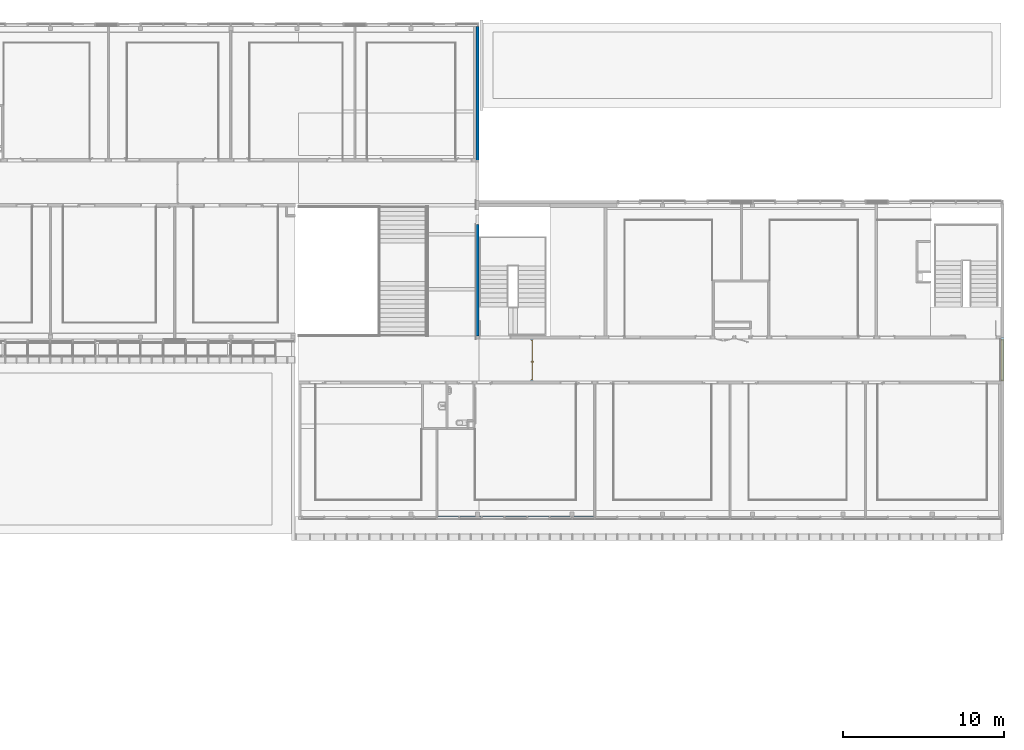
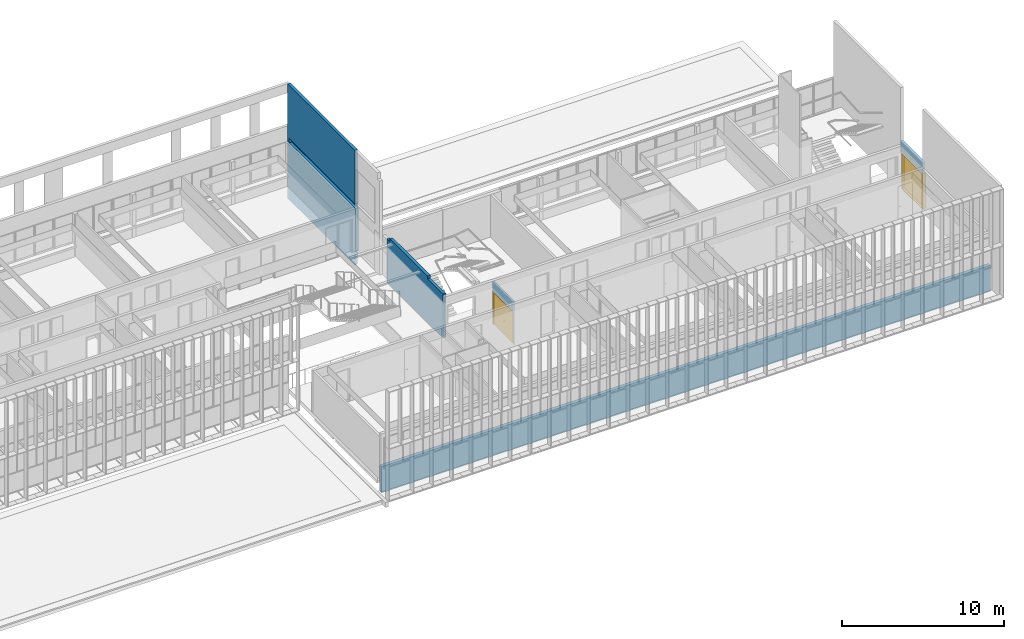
# One storey, part 98 of 106: 3 walls, 1 door, 1 window, 3 openings, plus 2 elements that do not belong to this part.
"""IFC2X3 building model written with IfcOpenShell, lengths in centimetres."""

from ifc_helpers import new_model, entity, si_unit, converted_unit, derived_unit, direction, frame, frame_2d, origin, place, context, subcontext, project, spatial, polyline, rectangle, extrude, clip, bounded_halfspace, faceted_brep, source, transform, mapped, material, material_list, layer, layer_set, layer_usage, type_object, type_shapes, element, fill, save


model = new_model("IFC2X3")

# Units and contexts
model_context = context("Model", 3, precision=0.001, world=origin(), true_north=direction((6.12303176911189e-17, 1.0)))
body_context = subcontext(model_context, "Body", "Model", "MODEL_VIEW")
ifc_project = project(units=[si_unit("LENGTHUNIT", "METRE", prefix="CENTI"), si_unit("AREAUNIT", "SQUARE_METRE"), si_unit("VOLUMEUNIT", "CUBIC_METRE"), converted_unit("PLANEANGLEUNIT", "DEGREE", entity("IfcRatioMeasure", 0.0174532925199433), si_unit("PLANEANGLEUNIT", "RADIAN"), dimensions=[0, 0, 0, 0, 0, 0, 0]), si_unit("MASSUNIT", "GRAM", prefix="KILO"), derived_unit("MASSDENSITYUNIT", [(si_unit("MASSUNIT", "GRAM", prefix="KILO"), 1), (si_unit("LENGTHUNIT", "METRE"), -3)]), si_unit("TIMEUNIT", "SECOND"), si_unit("FREQUENCYUNIT", "HERTZ"), si_unit("THERMODYNAMICTEMPERATUREUNIT", "DEGREE_CELSIUS"), derived_unit("THERMALTRANSMITTANCEUNIT", [(si_unit("MASSUNIT", "GRAM", prefix="KILO"), 1), (si_unit("THERMODYNAMICTEMPERATUREUNIT", "KELVIN"), -1), (si_unit("TIMEUNIT", "SECOND"), -3)]), derived_unit("VOLUMETRICFLOWRATEUNIT", [(si_unit("LENGTHUNIT", "METRE"), 3), (si_unit("TIMEUNIT", "SECOND"), -1)]), si_unit("ELECTRICCURRENTUNIT", "AMPERE"), si_unit("ELECTRICVOLTAGEUNIT", "VOLT"), si_unit("POWERUNIT", "WATT"), si_unit("FORCEUNIT", "NEWTON", prefix="KILO"), si_unit("ILLUMINANCEUNIT", "LUX"), si_unit("LUMINOUSFLUXUNIT", "LUMEN"), si_unit("LUMINOUSINTENSITYUNIT", "CANDELA"), derived_unit("USERDEFINED", [(si_unit("MASSUNIT", "GRAM", prefix="KILO"), -1), (si_unit("LENGTHUNIT", "METRE"), -2), (si_unit("TIMEUNIT", "SECOND"), 3), (si_unit("LUMINOUSFLUXUNIT", "LUMEN"), 1)]), derived_unit("LINEARVELOCITYUNIT", [(si_unit("LENGTHUNIT", "METRE"), 1), (si_unit("TIMEUNIT", "SECOND"), -1)]), si_unit("PRESSUREUNIT", "PASCAL"), derived_unit("USERDEFINED", [(si_unit("LENGTHUNIT", "METRE"), -2), (si_unit("MASSUNIT", "GRAM", prefix="KILO"), 1), (si_unit("TIMEUNIT", "SECOND"), -2)])], contexts=[model_context])

# Site, building, storey
site_placement = place(None, frame((-2781.94577612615, 7442.24238424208, 0.0)))
site = spatial("IfcSite", under=ifc_project, at=site_placement, Name="Default", CompositionType="ELEMENT")
building_placement = place(site_placement, origin())
building = spatial("IfcBuilding", under=site, at=building_placement, CompositionType="ELEMENT")
storey_placement = place(building_placement, frame((0.0, 0.0, 422.0)))
storey = spatial("IfcBuildingStorey", under=building, at=storey_placement, Name="Toiture - Cuisine", CompositionType="ELEMENT", Elevation=421.999999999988)

# Walls
ifc_material_1 = material(Name="01 - Maçonnerie")
ifc_layer_1 = layer(ifc_material_1, 25.0)
ifc_layer_set_1 = layer_set([ifc_layer_1], Name="Mur de base:04 - Structure - béton - 25cm")
wall_type_1 = type_object("IfcWallType", Name="Mur de base:04 - Structure - béton - 25cm", PredefinedType="STANDARD", material=ifc_layer_set_1)
wall_1_placement = place(building_placement, frame((-409.999882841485, -3017.81349958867, 313.0), z_axis=(0.0, 0.0, 1.0), x_axis=(-1.0, 0.0, 0.0)))
element("IfcWall", 1, at=wall_1_placement, inside=storey, type_object=wall_type_1, Name="Mur de base:04 - Structure - béton - 25cm", ObjectType="Mur de base:04 - Structure - béton - 25cm", context=body_context, shape_type="Brep", body=[
    faceted_brep([(4342.69999476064, -12.4999999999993, 197.0), (0.0, -12.4999999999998, 197.0), (0.0, -12.4999999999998, 109.0), (0.0, -12.4999999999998, 78.0), (0.0, -12.4999999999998, 0.0), (3239.49999684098, -12.4999999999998, 0.0), (3239.49999684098, -12.4999999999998, 7.0), (4342.69999476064, -12.4999999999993, 7.0), (4342.69999476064, 12.5000000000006, 0.0), (0.0, 12.5000000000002, 0.0), (0.0, 12.5000000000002, 25.0), (0.0, 12.5000000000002, 197.0), (4342.69999476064, 12.5000000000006, 197.0), (4342.69999476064, 12.5000000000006, 109.0), (4342.69999476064, 12.5000000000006, 25.0), (4342.69999476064, -7.49999999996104, 0.0), (3239.49999684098, -7.49999999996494, 0.0), (4342.69999476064, -7.49999999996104, 7.0), (3239.49999684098, -7.49999999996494, 7.0)], [[[0, 1, 2, 3, 4, 5, 6, 7]], [[8, 9, 10, 11, 12, 13, 14]], [[9, 8, 15, 16, 5, 4]], [[1, 0, 12, 11]], [[12, 0, 7, 17, 15, 8, 14, 13]], [[4, 3, 2, 1, 11, 10, 9]], [[6, 18, 17, 7]], [[18, 16, 15, 17]], [[16, 18, 6, 5]]]),
])
ifc_layer_2 = layer(ifc_material_1, 20.0)
ifc_layer_set_2 = layer_set([ifc_layer_2], Name="Mur de base:04 - Structure - béton - 20cm")
wall_type_2 = type_object("IfcWallType", Name="Mur de base:04 - Structure - béton - 20cm", PredefinedType="STANDARD", material=ifc_layer_set_2)
wall_2_placement = place(building_placement, frame((-3657.99987968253, 10.0, 313.0), z_axis=(0.0, 0.0, 1.0), x_axis=(0.0, -1.0, 0.0)))
element("IfcWall", 2, at=wall_2_placement, inside=storey, type_object=wall_type_2, Name="Mur de base:04 - Structure - béton - 20cm", ObjectType="Mur de base:04 - Structure - béton - 20cm", context=body_context, shape_type="Brep", body=[
    faceted_brep([(0.0, -10.0, 0.0), (25.0, -10.0, 0.0), (517.548500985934, -10.0, 0.0), (522.548500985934, -10.0, 0.0), (532.548500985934, -10.0, 0.0), (830.04850098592, -10.0, 0.0), (830.04850098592, -10.0, 78.0), (830.04850098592, -10.0, 109.0), (840.048500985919, -10.0, 109.0), (840.048500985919, -10.0, 379.0), (840.048500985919, -10.0, 430.0), (830.048500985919, -10.0, 430.0), (820.048500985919, -10.0, 430.0), (20.0, -10.0, 430.0), (20.0, -10.0, 461.0), (830.04850098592, -10.0, 461.0), (830.04850098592, -10.0, 787.0), (830.04850098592, -10.0, 833.0), (830.04850098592, -10.0, 863.0), (20.0, -10.0, 863.0), (0.0, -10.0, 863.0), (0.0, -10.0, 858.0), (0.0, -10.0, 197.0), (0.0, -10.0, 78.0), (0.0, -10.0, 62.0), (830.04850098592, 10.0, 0.0), (522.548500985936, 10.0, 0.0), (0.0, 10.0, 0.0), (0.0, 10.0, 863.0), (830.04850098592, 10.0, 863.0), (830.04850098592, 10.0, 430.0), (840.04850098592, 10.0, 430.0), (840.04850098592, 10.0, 379.0), (840.04850098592, 10.0, 109.0), (830.04850098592, 10.0, 109.0), (830.04850098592, 8.49999999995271, 461.0), (830.04850098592, 8.49999999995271, 430.0), (20.0, 8.49999999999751, 430.0), (20.0, 8.49999999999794, 461.0)], [[[0, 1, 2, 3, 4, 5, 6, 7, 8, 9, 10, 11, 12, 13, 14, 15, 16, 17, 18, 19, 20, 21, 22, 23, 24]], [[25, 26, 27, 28, 29, 30, 31, 32, 33, 34]], [[5, 4, 3, 2, 1, 0, 27, 26, 25]], [[20, 19, 18, 29, 28]], [[0, 24, 23, 22, 21, 20, 28, 27]], [[5, 25, 34, 7, 6]], [[8, 7, 34, 33]], [[29, 18, 17, 16, 15, 35, 36, 30]], [[8, 33, 32, 31, 10, 9]], [[31, 30, 36, 37, 13, 12, 11, 10]], [[38, 35, 15, 14]], [[37, 38, 14, 13]], [[38, 37, 36, 35]]]),
])
wall_3_placement = place(building_placement, frame((-3657.99987968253, -1910.07903364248, 422.0), z_axis=(0.0, 0.0, 1.0), x_axis=(0.0, 1.0, 0.0)))
element("IfcWall", 3, at=wall_3_placement, inside=storey, type_object=wall_type_2, Name="Mur de base:04 - Structure - béton - 20cm", ObjectType="Mur de base:04 - Structure - béton - 20cm", context=body_context, shape_type="Brep", body=[
    faceted_brep([(0.0, -10.0, 0.0), (690.97226327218, -10.0, 0.0), (690.97226327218, -10.0, 210.0), (690.97226327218, -10.0, 321.0), (690.97226327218, -10.0, 331.0), (656.706770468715, -10.0, 331.0), (656.706770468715, -10.0, 352.0), (190.0, -10.0, 352.0), (190.0, -10.0, 331.0), (0.0, -10.0, 331.0), (0.0, -10.0, 253.500000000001), (690.97226327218, 10.0, 0.0), (0.0, 10.0, 0.0), (0.0, 10.0, 321.0), (0.0, 10.0, 331.0), (190.0, 10.0, 331.0), (190.0, 10.0, 352.0), (656.706770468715, 10.0, 352.0), (656.706770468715, 10.0, 331.0), (690.97226327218, 10.0, 331.0), (690.972263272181, 10.0, 321.0), (690.972263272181, 10.0, 270.0), (690.97226327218, 10.0, 210.0)], [[[0, 1, 2, 3, 4, 5, 6, 7, 8, 9, 10]], [[11, 12, 13, 14, 15, 16, 17, 18, 19, 20, 21, 22]], [[1, 0, 12, 11]], [[1, 11, 22, 21, 20, 19, 4, 3, 2]], [[7, 6, 17, 16]], [[12, 0, 10, 9, 14, 13]], [[18, 5, 4, 19]], [[15, 8, 7, 16]], [[5, 18, 17, 6]], [[8, 15, 14, 9]]]),
])

# Wall, openings, window
ifc_layer_usage_1 = layer_usage(ifc_layer_set_2, "AXIS2", "NEGATIVE", 10.0)
wall_4_placement = place(building_placement, frame((-399.999882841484, -2190.07903364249, 692.0), z_axis=(0.0, 0.0, 1.0), x_axis=(0.0, 1.0, 0.0)))
wall_4 = element("IfcWallStandardCase", 4, at=wall_4_placement, inside=storey, type_object=wall_type_2, material=ifc_layer_usage_1, Name="Mur de base:04 - Structure - béton - 20cm", ObjectType="Mur de base:04 - Structure - béton - 20cm", context=body_context, shape_type="Clipping", body=[
    clip(extrude(rectangle(XDim=270.000000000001, YDim=20.0, at=frame_2d((135.0, 8.88178419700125e-15), x_axis=(-1.0, 0.0))), origin(), (0.0, 0.0, 1.0), 82.0000000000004), bounded_halfspace(frame((0.0, -10.0, 0.0), z_axis=(1.0, 0.0, 0.0), x_axis=(0.0, 1.0, 0.0)), True, frame((0.0, -10.0, 0.0), z_axis=(1.0, 0.0, 0.0), x_axis=(0.0, 1.0, 0.0)), polyline([(0.0, 0.0), (20.0, 0.0), (20.0, 82.0), (0.0, 82.0), (0.0, 0.0)]))),
])
opening_1_placement = place(wall_4_placement, origin())
element("IfcOpeningElement", 5, at=opening_1_placement, cuts=wall_4, Name="Mur de base:04 - Structure - béton - 20cm", ObjectType="Opening", context=body_context, shape_type="SweptSolid", body=[
    extrude(rectangle(XDim=270.0, YDim=260.0, at=frame_2d((2.27373675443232e-13, 0.0), x_axis=(0.0, 1.0))), frame((130.0, -162.400000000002, 217.0), z_axis=(0.0, 1.0, 0.0), x_axis=(-1.0, 0.0, 0.0)), (0.0, 0.0, 1.0), 304.8),
])
opening_2_placement = place(wall_4_placement, frame((-0.0775336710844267, -10.0, -270.0)))
opening_2 = element("IfcOpeningElement", 6, at=opening_2_placement, cuts=wall_4, Name="châssis intérieur vitré:R+1 - Pignon -  châssis intérieur vitré (2,70m):1", ObjectType="Opening", context=body_context, shape_type="SweptSolid", body=[
    extrude(rectangle(XDim=270.0, YDim=260.077533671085, at=frame_2d((135.0, 130.038766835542), x_axis=(1.0, 0.0))), frame((0.0, 0.0, 0.0), z_axis=(0.0, 1.0, 0.0), x_axis=(0.0, 0.0, 1.0)), (0.0, 0.0, 1.0), 20.0),
])
ifc_material_2 = material(Name="Verre")
ifc_material_3 = material(Name="huisserie bois")
ifc_material_list_1 = material_list([ifc_material_2, ifc_material_3])
ifc_material_list_2 = material_list([ifc_material_2, ifc_material_3])
window_style = type_object("IfcWindowStyle", Name="R+1 - Pignon -  châssis intérieur vitré (2,70m)", ConstructionType="NOTDEFINED", OperationType="NOTDEFINED", ParameterTakesPrecedence=False, Sizeable=False, material=ifc_material_list_2)
shared_shape_1 = source(origin(), body_context, "Body", "Brep", [
    faceted_brep([(257.077533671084, 5.0, 267.0), (257.077533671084, 5.0, 3.0), (3.0, 5.0, 3.0), (3.0, 5.0, 267.0), (257.077533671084, 2.0, 267.0), (257.077533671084, 2.0, 3.0), (3.0, 2.0, 3.0), (3.0, 2.0, 267.0)], [[[0, 1, 2, 3]], [[1, 0, 4, 5]], [[2, 1, 5, 6]], [[3, 2, 6, 7]], [[4, 7, 6, 5]], [[0, 3, 7, 4]]]),
    faceted_brep([(257.077533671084, 2.0, 267.0), (257.077533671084, 0.0, 267.0), (257.077533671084, 0.0, 3.0), (257.077533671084, 2.0, 3.0), (255.077533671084, 0.0, 5.0), (5.0, 0.0, 5.0), (5.0, 0.0, 265.0), (255.077533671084, 0.0, 265.0), (3.0, 0.0, 267.0), (3.0, 0.0, 3.0), (3.0, 2.0, 3.0), (3.0, 2.0, 267.0), (255.077533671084, 2.0, 265.0), (5.0, 2.0, 265.0), (5.0, 2.0, 5.0), (255.077533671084, 2.0, 5.0)], [[[0, 1, 2, 3]], [[4, 5, 6, 7], [1, 8, 9, 2]], [[3, 2, 9, 10]], [[3, 10, 11, 0], [12, 13, 14, 15]], [[7, 12, 15, 4]], [[4, 15, 14, 5]], [[10, 9, 8, 11]], [[5, 14, 13, 6]], [[11, 8, 1, 0]], [[6, 13, 12, 7]]], outer=[[True], [False, True], [True], [True, False], [True], [True], [True], [True], [True], [True]]),
    faceted_brep([(255.077533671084, 5.0, 265.0), (255.077533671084, 20.0, 265.0), (255.077533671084, 20.0, 5.0), (255.077533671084, 5.0, 5.0), (260.077533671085, 20.0, 0.0), (0.0, 20.0, 0.0), (0.0, 20.0, 270.0), (260.077533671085, 20.0, 270.0), (5.0, 20.0, 265.0), (5.0, 20.0, 5.0), (5.0, 5.0, 5.0), (5.0, 5.0, 265.0), (257.077533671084, 5.0, 267.0), (3.0, 5.0, 267.0), (3.0, 5.0, 3.0), (257.077533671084, 5.0, 3.0), (257.077533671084, 0.0, 267.0), (257.077533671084, 0.0, 3.0), (3.0, 0.0, 3.0), (3.0, 0.0, 267.0), (260.077533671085, 0.0, 270.0), (0.0, 0.0, 270.0), (0.0, 0.0, 0.0), (260.077533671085, 0.0, 0.0)], [[[0, 1, 2, 3]], [[4, 5, 6, 7], [1, 8, 9, 2]], [[3, 2, 9, 10]], [[3, 10, 11, 0], [12, 13, 14, 15]], [[16, 12, 15, 17]], [[17, 15, 14, 18]], [[17, 18, 19, 16], [20, 21, 22, 23]], [[7, 20, 23, 4]], [[4, 23, 22, 5]], [[10, 9, 8, 11]], [[18, 14, 13, 19]], [[5, 22, 21, 6]], [[11, 8, 1, 0]], [[19, 13, 12, 16]], [[6, 21, 20, 7]]], outer=[[True], [True, False], [True], [False, True], [True], [True], [False, True], [True], [True], [True], [True], [True], [True], [True], [True]]),
])
type_shapes(window_style, [shared_shape_1])
window_placement = place(opening_2_placement, origin())
window = element("IfcWindow", 7, at=window_placement, inside=storey, type_object=window_style, material=ifc_material_list_1, Name="châssis intérieur vitré:R+1 - Pignon -  châssis intérieur vitré (2,70m)", ObjectType="châssis intérieur vitré:R+1 - Pignon -  châssis intérieur vitré (2,70m)", OverallHeight=270.0, OverallWidth=260.077533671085, context=body_context, shape_type="MappedRepresentation", body=[
    mapped(shared_shape_1, transform((0.0, 0.0, 0.0), scale=1.0)),
])
fill(opening_2, window)

# Wall, opening, door
ifc_material_4 = material(Name="01 - Enduit/Plâtre")
ifc_layer_3 = layer(ifc_material_4, 1.3)
ifc_material_5 = material(Name="00 - Isolant")
ifc_layer_4 = layer(ifc_material_5, 7.4)
ifc_layer_5 = layer(ifc_material_4, 1.3)
ifc_layer_set_3 = layer_set([ifc_layer_3, ifc_layer_4, ifc_layer_5], Name="Mur de base:06 - cloisons - Ba13 10cm")
ifc_layer_usage_2 = layer_usage(ifc_layer_set_3, "AXIS2", "NEGATIVE", 5.0)
wall_type_3 = type_object("IfcWallType", Name="Mur de base:06 - cloisons - Ba13 10cm", PredefinedType="STANDARD", material=ifc_layer_set_3)
wall_5_placement = place(building_placement, frame((-3321.49987968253, -1930.07903364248, 422.0), z_axis=(0.0, 0.0, 1.0), x_axis=(0.0, -1.0, 0.0)))
wall_5 = element("IfcWallStandardCase", 8, at=wall_5_placement, inside=storey, type_object=wall_type_3, material=ifc_layer_usage_2, Name="Mur de base:06 - cloisons - Ba13 10cm", ObjectType="Mur de base:06 - cloisons - Ba13 10cm", context=body_context, shape_type="SweptSolid", body=[
    extrude(rectangle(XDim=260.077533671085, YDim=10.0000000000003, at=frame_2d((130.038766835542, 0.0), x_axis=(-1.0, 0.0))), origin(), (0.0, 0.0, 1.0), 321.0),
])
opening_3_placement = place(wall_5_placement, frame((5.03876683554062, -5.0, 0.0)))
opening_3 = element("IfcOpeningElement", 9, at=opening_3_placement, cuts=wall_5, Name="Int. Double:PV (2.50m x 2.04m):1", ObjectType="Opening", context=body_context, shape_type="SweptSolid", body=[
    extrude(rectangle(XDim=248.500000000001, YDim=250.0, at=frame_2d((124.250000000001, 125.0), x_axis=(1.0, 0.0))), frame((0.0, 0.0, 0.0), z_axis=(0.0, 1.0, 0.0), x_axis=(0.0, 0.0, 1.0)), (0.0, 0.0, 1.0), 10.0),
])
ifc_material_6 = material(Name="Bois - Panneau de porte")
ifc_material_7 = material(Name="Finition Peinture - Blanc satiné")
ifc_material_8 = material(Name="Bois - Cadre de porte")
ifc_material_list_3 = material_list([ifc_material_6, ifc_material_7, ifc_material_8])
ifc_material_list_4 = material_list([ifc_material_6, ifc_material_7, ifc_material_8])
door_style = type_object("IfcDoorStyle", Name="PV (2.50m x 2.04m)", ConstructionType="NOTDEFINED", OperationType="DOUBLE_DOOR_SINGLE_SWING", ParameterTakesPrecedence=False, Sizeable=False, material=ifc_material_list_4)
shared_shape_2 = source(origin(), body_context, "Body", "Brep", [
    faceted_brep([(132.0, 4.0, 245.0), (253.500000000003, 4.0, 245.0), (253.500000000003, 4.0, 0.0), (132.0, 4.0, 0.0), (132.0, 0.0, 245.0), (132.0, 0.0, 0.0), (253.500000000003, 0.0, 0.0), (253.500000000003, 0.0, 245.0)], [[[0, 1, 2, 3]], [[4, 5, 6, 7]], [[1, 0, 4, 7]], [[2, 1, 7, 6]], [[3, 2, 6, 5]], [[0, 3, 5, 4]]]),
    faceted_brep([(128.0, -0.50000000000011, 87.0), (128.0, -0.50000000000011, 108.0), (127.035276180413, -0.500000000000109, 108.399601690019), (126.0, -0.500000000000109, 108.535898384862), (124.964723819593, -0.500000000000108, 108.399601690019), (124.0, -0.500000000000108, 108.0), (124.0, -0.500000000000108, 87.0), (124.964723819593, -0.500000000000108, 86.6003983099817), (126.0, -0.500000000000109, 86.464101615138), (127.035276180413, -0.500000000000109, 86.6003983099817), (128.0, 0.0, 108.0), (128.0, 0.0, 87.0), (127.035276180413, 0.0, 86.6003983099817), (126.0, 0.0, 86.464101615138), (124.964723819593, 0.0, 86.6003983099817), (124.0, 0.0, 87.0), (124.0, 0.0, 108.0), (124.964723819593, 0.0, 108.399601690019), (126.0, 0.0, 108.535898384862), (127.035276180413, 0.0, 108.399601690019)], [[[0, 1, 2, 3, 4, 5, 6, 7, 8, 9]], [[10, 11, 12, 13, 14, 15, 16, 17, 18, 19]], [[9, 12, 11, 0]], [[8, 13, 12, 9]], [[7, 14, 13, 8]], [[7, 6, 15, 14]], [[15, 6, 5, 16]], [[4, 17, 16, 5]], [[3, 18, 17, 4]], [[2, 19, 18, 3]], [[2, 1, 10, 19]], [[11, 10, 1, 0]]]),
    faceted_brep([(128.0, 4.0, 87.0), (128.0, 4.0, 108.0), (127.035276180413, 4.0, 108.399601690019), (126.0, 4.0, 108.535898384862), (124.964723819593, 4.0, 108.399601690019), (124.0, 4.0, 108.0), (124.0, 4.0, 87.0), (124.964723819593, 4.0, 86.6003983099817), (126.0, 4.0, 86.464101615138), (127.035276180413, 4.0, 86.6003983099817), (126.0, 4.49999999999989, 108.535898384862), (127.035276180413, 4.49999999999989, 108.399601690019), (128.0, 4.49999999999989, 108.0), (128.0, 4.49999999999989, 87.0), (127.035276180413, 4.49999999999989, 86.6003983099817), (126.0, 4.49999999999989, 86.464101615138), (124.964723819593, 4.49999999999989, 86.6003983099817), (124.0, 4.49999999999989, 87.0), (124.0, 4.49999999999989, 108.0), (124.964723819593, 4.49999999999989, 108.399601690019)], [[[0, 1, 2, 3, 4, 5, 6, 7, 8, 9]], [[10, 11, 12, 13, 14, 15, 16, 17, 18, 19]], [[4, 19, 18, 5]], [[3, 10, 19, 4]], [[2, 11, 10, 3]], [[2, 1, 12, 11]], [[13, 12, 1, 0]], [[9, 14, 13, 0]], [[8, 15, 14, 9]], [[7, 16, 15, 8]], [[7, 6, 17, 16]], [[17, 6, 5, 18]]]),
    faceted_brep([(125.797470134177, -0.500000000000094, 100.778044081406), (126.202529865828, -0.500000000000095, 100.778044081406), (126.600000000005, -0.500000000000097, 100.699999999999), (126.600000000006, -0.500000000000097, 99.2999999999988), (126.202529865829, -0.500000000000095, 99.221955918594), (125.797470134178, -0.500000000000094, 99.2219559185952), (125.4, -0.500000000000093, 99.3000000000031), (125.4, -0.500000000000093, 100.7), (126.202529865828, -3.10045754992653, 100.778044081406), (126.600000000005, -3.26509507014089, 100.7), (125.797470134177, -2.93267631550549, 100.778044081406), (124.42986024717, -4.30028620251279, 100.778044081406), (124.597641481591, -4.70534593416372, 100.778044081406), (125.4, -2.76803879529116, 100.7), (125.4, -2.76803879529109, 99.3000000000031), (125.797470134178, -2.93267631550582, 99.2219559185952), (126.202529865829, -3.10045754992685, 99.221955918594), (124.597641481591, -4.7053459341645, 99.221955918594), (124.42986024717, -4.30028620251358, 99.2219559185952), (126.600000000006, -3.26509507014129, 99.2999999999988), (124.762279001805, -5.10281606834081, 100.7), (124.265222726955, -3.90281606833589, 100.7), (124.265222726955, -3.90281606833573, 99.3000000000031), (124.762279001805, -5.10281606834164, 99.2999999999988), (115.998135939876, -5.10281606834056, 100.7), (115.998135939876, -4.70534593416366, 100.778044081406), (115.998135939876, -4.30028620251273, 100.778044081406), (115.998135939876, -3.9028160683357, 100.699999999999), (115.998135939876, -3.90281606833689, 99.3000000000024), (115.998135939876, -4.30028620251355, 99.2219559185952), (115.998135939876, -4.70534593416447, 99.221955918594), (115.998135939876, -5.10281606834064, 99.2999999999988), (120.213998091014, -4.50281606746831, 100.78786867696), (120.769230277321, -5.10281606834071, 100.7), (120.131679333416, -3.9028160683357, 100.7), (120.131679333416, -3.9028160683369, 99.3000000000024), (120.213998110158, -4.50281607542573, 99.2121313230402), (120.769231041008, -5.10281606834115, 99.2999999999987)], [[[0, 1, 2, 3, 4, 5, 6, 7]], [[2, 1, 8, 9]], [[1, 0, 10, 11, 12, 8]], [[0, 7, 13, 10]], [[14, 13, 7, 6]], [[5, 15, 14, 6]], [[5, 4, 16, 17, 18, 15]], [[3, 19, 16, 4]], [[9, 19, 3, 2]], [[9, 8, 12, 20]], [[10, 13, 21, 11]], [[22, 21, 13, 14]], [[14, 15, 18, 22]], [[16, 19, 23, 17]], [[20, 23, 19, 9]], [[24, 25, 26, 27, 28, 29, 30, 31]], [[32, 25, 33]], [[33, 25, 24]], [[33, 20, 12]], [[11, 34, 32]], [[34, 11, 21]], [[27, 26, 34]], [[32, 26, 25]], [[32, 34, 26]], [[32, 33, 12]], [[11, 32, 12]], [[21, 22, 35, 28, 27, 34]], [[36, 29, 35]], [[30, 36, 37]], [[18, 35, 22]], [[29, 28, 35]], [[30, 37, 31]], [[37, 17, 23]], [[36, 17, 37]], [[36, 18, 17]], [[36, 35, 18]], [[29, 36, 30]], [[23, 20, 33, 24, 31, 37]]]),
    faceted_brep([(125.797470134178, 4.4999999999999, 99.2219559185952), (126.202529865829, 4.4999999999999, 99.221955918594), (126.600000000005, 4.4999999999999, 99.2999999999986), (126.600000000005, 4.4999999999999, 100.7), (126.202529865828, 4.4999999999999, 100.778044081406), (125.797470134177, 4.4999999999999, 100.778044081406), (125.4, 4.49999999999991, 100.7), (125.400000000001, 4.49999999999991, 99.3000000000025), (125.4, 6.7485204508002, 100.7), (125.4, 6.7485204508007, 99.3000000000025), (125.797470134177, 6.91315797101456, 100.778044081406), (126.202529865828, 7.08093920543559, 100.778044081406), (124.583890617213, 8.69957845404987, 100.778044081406), (124.416109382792, 8.29451872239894, 100.778044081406), (126.600000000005, 7.24557672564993, 100.7), (126.600000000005, 7.24557672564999, 99.2999999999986), (126.202529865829, 7.08093920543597, 99.221955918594), (125.797470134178, 6.91315797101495, 99.2219559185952), (124.416109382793, 8.29451872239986, 99.2219559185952), (124.583890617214, 8.69957845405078, 99.221955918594), (124.251471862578, 7.89704858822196, 100.7), (124.251471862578, 7.89704858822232, 99.3000000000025), (124.748528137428, 9.09704858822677, 100.7), (124.748528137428, 9.0970485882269, 99.2999999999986), (115.995421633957, 8.294518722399, 100.778044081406), (115.995421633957, 8.69957845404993, 100.778044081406), (115.995421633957, 9.09704858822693, 100.7), (115.995421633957, 9.09704858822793, 99.2999999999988), (115.995421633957, 8.6995784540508, 99.221955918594), (115.995421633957, 8.29451872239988, 99.2219559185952), (115.995421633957, 7.89704858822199, 99.3000000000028), (115.995421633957, 7.8970485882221, 100.7), (120.123446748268, 7.89704858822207, 100.7), (120.123447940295, 7.89704858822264, 99.3000000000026), (120.20576551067, 8.49704858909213, 100.78786867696), (120.755479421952, 9.09704858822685, 100.7), (120.755479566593, 9.09704858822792, 99.2999999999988), (120.205765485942, 8.49704858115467, 99.2121313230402)], [[[0, 1, 2, 3, 4, 5, 6, 7]], [[8, 9, 7, 6]], [[5, 10, 8, 6]], [[5, 4, 11, 12, 13, 10]], [[3, 14, 11, 4]], [[14, 3, 2, 15]], [[2, 1, 16, 15]], [[1, 0, 17, 18, 19, 16]], [[0, 7, 9, 17]], [[20, 21, 9, 8]], [[8, 10, 13, 20]], [[14, 22, 12, 11]], [[23, 22, 14, 15]], [[15, 16, 19, 23]], [[17, 9, 21, 18]], [[24, 25, 26, 27, 28, 29, 30, 31]], [[21, 20, 32, 31, 30, 33]], [[34, 24, 32]], [[25, 34, 35]], [[13, 32, 20]], [[24, 31, 32]], [[25, 35, 26]], [[35, 12, 22]], [[34, 12, 35]], [[34, 13, 12]], [[34, 32, 13]], [[24, 34, 25]], [[22, 23, 36, 27, 26, 35]], [[37, 28, 36]], [[36, 28, 27]], [[36, 23, 19]], [[18, 33, 37]], [[33, 18, 21]], [[30, 29, 33]], [[37, 29, 28]], [[37, 33, 29]], [[37, 36, 19]], [[18, 37, 19]]]),
    faceted_brep([(132.0, 4.0, 245.0), (132.0, 4.0, 0.0), (10.5000000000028, 4.0, 0.0), (10.5000000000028, 4.0, 245.0), (132.0, 0.0, 245.0), (10.5000000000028, 0.0, 245.0), (10.5000000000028, 0.0, 0.0), (132.0, 0.0, 0.0)], [[[0, 1, 2, 3]], [[4, 5, 6, 7]], [[3, 5, 4, 0]], [[2, 6, 5, 3]], [[1, 7, 6, 2]], [[0, 4, 7, 1]]]),
    faceted_brep([(257.0, 0.0, 0.0), (253.500000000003, 0.0, 0.0), (253.500000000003, 4.0, 0.0), (252.0, 4.0, 0.0), (252.0, 10.0, 0.0), (257.0, 10.0, 0.0), (257.0, 10.0, 248.500000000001), (257.0, 0.0, 248.500000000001), (252.0, 10.0, 243.5), (12.0, 10.0, 243.5), (12.0, 10.0, 0.0), (7.0, 10.0, 0.0), (7.0, 10.0, 248.500000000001), (252.0, 4.0, 243.5), (253.500000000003, 4.0, 245.0), (10.5000000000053, 4.0, 245.0), (10.5000000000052, 4.0, 0.0), (12.0, 4.0, 0.0), (12.0, 4.0, 243.5), (253.500000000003, 0.0, 245.0), (7.0, 0.0, 248.500000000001), (7.0, 0.0, 0.0), (10.5000000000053, 0.0, 0.0), (10.5000000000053, 0.0, 245.0)], [[[0, 1, 2, 3, 4, 5]], [[5, 6, 7, 0]], [[4, 8, 9, 10, 11, 12, 6, 5]], [[3, 13, 8, 4]], [[2, 14, 15, 16, 17, 18, 13, 3]], [[1, 19, 14, 2]], [[0, 7, 20, 21, 22, 23, 19, 1]], [[12, 11, 21, 20]], [[21, 11, 10, 17, 16, 22]], [[18, 17, 10, 9]], [[23, 22, 16, 15]], [[6, 12, 20, 7]], [[13, 18, 9, 8]], [[19, 23, 15, 14]]]),
    faceted_brep([(255.500000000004, 10.0, 0.0), (255.500000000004, 10.5000000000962, 0.0), (258.500000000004, 10.5000000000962, 0.0), (258.500000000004, 10.0, 0.0), (258.500000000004, 10.0, 250.0), (5.50000000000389, 10.0, 250.0), (5.50000000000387, 10.0, 0.0), (8.50000000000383, 10.0, 0.0), (8.50000000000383, 10.0, 247.0), (255.500000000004, 10.0, 247.0), (258.500000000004, 10.5000000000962, 250.0), (255.500000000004, 10.5000000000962, 247.0), (8.50000000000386, 10.5000000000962, 247.0), (8.50000000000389, 10.5000000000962, 0.0), (5.50000000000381, 10.5000000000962, 0.0), (5.50000000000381, 10.5000000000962, 250.0)], [[[0, 1, 2, 3]], [[3, 4, 5, 6, 7, 8, 9, 0]], [[2, 10, 4, 3]], [[1, 11, 12, 13, 14, 15, 10, 2]], [[0, 9, 11, 1]], [[8, 7, 13, 12]], [[7, 6, 14, 13]], [[15, 14, 6, 5]], [[10, 15, 5, 4]], [[9, 8, 12, 11]]]),
    faceted_brep([(258.500000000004, -0.500000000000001, 0.0), (258.500000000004, -0.500000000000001, 250.0), (5.50000000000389, -0.500000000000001, 250.0), (5.50000000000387, -0.500000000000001, 0.0), (8.50000000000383, -0.500000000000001, 0.0), (8.50000000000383, -0.500000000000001, 247.0), (255.500000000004, -0.500000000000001, 247.0), (255.500000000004, -0.500000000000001, 0.0), (258.500000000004, 0.0, 0.0), (258.500000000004, 0.0, 250.0), (255.500000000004, 0.0, 0.0), (255.500000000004, 0.0, 247.0), (8.50000000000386, 0.0, 247.0), (8.50000000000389, 0.0, 0.0), (5.50000000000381, 0.0, 0.0), (5.50000000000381, 0.0, 250.0)], [[[0, 1, 2, 3, 4, 5, 6, 7]], [[8, 9, 1, 0]], [[10, 11, 12, 13, 14, 15, 9, 8]], [[7, 6, 11, 10]], [[5, 4, 13, 12]], [[15, 14, 3, 2]], [[9, 15, 2, 1]], [[6, 5, 12, 11]], [[4, 3, 14, 13]], [[7, 10, 8, 0]]]),
])
type_shapes(door_style, [shared_shape_2])
door_placement = place(opening_3_placement, frame((257.0, 10.0, 0.0), z_axis=(0.0, 0.0, 1.0), x_axis=(-1.0, 0.0, 0.0)))
door = element("IfcDoor", 10, at=door_placement, inside=storey, type_object=door_style, material=ifc_material_list_3, Name="Int. Double:PV (2.50m x 2.04m)", ObjectType="Int. Double:PV (2.50m x 2.04m)", OverallHeight=248.500000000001, OverallWidth=250.0, context=body_context, shape_type="MappedRepresentation", body=[
    mapped(shared_shape_2, transform((0.0, 0.0, 0.0), scale=1.0)),
])
fill(opening_3, door)

save(model, "model.ifc")
